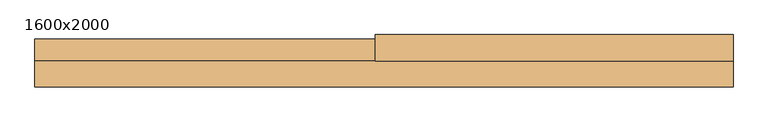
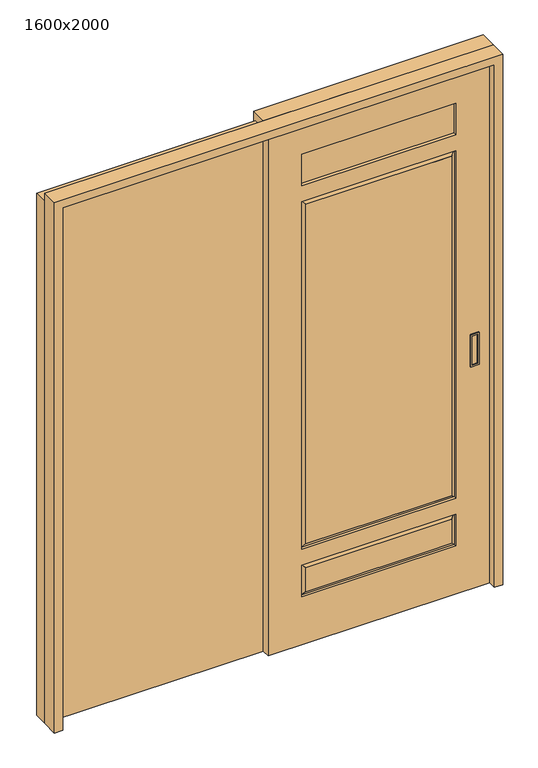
"""IFC4 building model written with IfcOpenShell, lengths in millimetres: door geometry, 片引戸CL2017 : 1600x2000."""

from ifc_helpers import new_model, si_unit, frame, origin, origin_with_axes, place, context, project, spatial, polyline, outline, extrude, faceted_brep, source, transform, mapped, element, save


def door_1600x2000_09a7ee27(model_context):
    return source(origin(), model_context, "Body", "SolidModel", [
        faceted_brep([(730.0, 5.0, 960.0), (730.0, 5.0, 840.0), (700.0, 5.0, 840.0), (700.0, 5.0, 960.0), (705.0, 5.0, 955.0), (705.0, 5.0, 845.0), (725.0, 5.0, 845.0), (725.0, 5.0, 955.0), (730.0, -35.0, 960.0), (700.0, -35.0, 960.0), (700.0, -35.0, 840.0), (730.0, -35.0, 840.0), (705.0, -35.0, 845.0), (705.0, -35.0, 955.0), (725.0, -35.0, 955.0), (725.0, -35.0, 845.0), (705.0, 1.0, 955.0), (705.0, 1.0, 845.0), (705.0, -31.0, 845.0), (705.0, -31.0, 955.0), (725.0, 1.0, 955.0), (725.0, 1.0, 845.0), (725.0, -31.0, 845.0), (725.0, -31.0, 955.0)], [[[0, 1, 2, 3], [4, 5, 6, 7]], [[8, 9, 10, 11], [12, 13, 14, 15]], [[1, 0, 8, 11]], [[2, 1, 11, 10]], [[3, 2, 10, 9]], [[0, 3, 9, 8]], [[16, 17, 5, 4]], [[18, 19, 13, 12]], [[20, 7, 6, 21]], [[22, 15, 14, 23]], [[16, 4, 7, 20]], [[5, 17, 21, 6]], [[17, 16, 20, 21]], [[18, 12, 15, 22]], [[13, 19, 23, 14]], [[19, 18, 22, 23]]]),
        extrude(outline(polyline([(0.0, 770.0), (1970.0, 770.0), (1970.0, -20.0), (0.0, -20.0), (0.0, 770.0)]), holes=[polyline([(1730.0, 650.0), (1730.0, 100.0), (1850.0, 100.0), (1850.0, 650.0), (1730.0, 650.0)]), polyline([(300.0, 100.0), (300.0, 650.0), (180.0, 650.0), (180.0, 100.0), (300.0, 100.0)]), polyline([(360.0, 650.0), (360.0, 100.0), (1670.0, 100.0), (1670.0, 650.0), (360.0, 650.0)])]), frame((0.0, -30.0, 0.0), z_axis=(0.0, 1.0, 0.0), x_axis=(0.0, 0.0, 1.0)), (0.0, 0.0, 1.0), 30.0),
        extrude(outline(polyline([(650.0, -17.5), (100.0, -17.5), (100.0, -12.5), (650.0, -12.5), (650.0, -17.5)])), frame((0.0, 0.0, 1730.0), z_axis=(0.0, 0.0, 1.0), x_axis=(1.0, 0.0, 0.0)), (0.0, 0.0, 1.0), 120.0),
        extrude(outline(polyline([(635.0, -30.0), (115.0, -30.0), (115.0, 0.0), (635.0, 0.0), (635.0, -30.0)])), frame((0.0, 0.0, 195.0), z_axis=(0.0, 0.0, 1.0), x_axis=(1.0, 0.0, 0.0)), (0.0, 0.0, 1.0), 90.0),
        extrude(outline(polyline([(635.0, -30.0), (115.0, -30.0), (115.0, 0.0), (635.0, 0.0), (635.0, -30.0)])), frame((0.0, 0.0, 375.0), z_axis=(0.0, 0.0, 1.0), x_axis=(1.0, 0.0, 0.0)), (0.0, 0.0, 1.0), 1280.0),
        faceted_brep([(100.0, -20.0, 1670.0), (100.0, -10.0, 1670.0), (100.0, -10.0, 360.0), (100.0, -20.0, 360.0), (115.0, -30.0, 1655.0), (115.0, -30.0, 375.0), (115.0, 0.0, 1655.0), (115.0, 0.0, 375.0), (650.0, -10.0, 360.0), (650.0, -20.0, 360.0), (635.0, -30.0, 375.0), (635.0, 0.0, 375.0), (650.0, -10.0, 1670.0), (650.0, -20.0, 1670.0), (635.0, -30.0, 1655.0), (635.0, 0.0, 1655.0)], [[[0, 1, 2, 3]], [[4, 0, 3, 5]], [[6, 4, 5, 7]], [[1, 6, 7, 2]], [[3, 2, 8, 9]], [[5, 3, 9, 10]], [[7, 5, 10, 11]], [[2, 7, 11, 8]], [[9, 8, 12, 13]], [[10, 9, 13, 14]], [[11, 10, 14, 15]], [[8, 11, 15, 12]], [[13, 12, 1, 0]], [[14, 13, 0, 4]], [[15, 14, 4, 6]], [[12, 15, 6, 1]]]),
        faceted_brep([(115.0, 0.0, 195.0), (100.0, -10.0, 180.0), (100.0, -10.0, 300.0), (115.0, 0.0, 285.0), (115.0, -30.0, 195.0), (115.0, -30.0, 285.0), (100.0, -20.0, 180.0), (100.0, -20.0, 300.0), (650.0, -10.0, 300.0), (635.0, 0.0, 285.0), (635.0, -30.0, 285.0), (650.0, -20.0, 300.0), (650.0, -10.0, 180.0), (635.0, 0.0, 195.0), (635.0, -30.0, 195.0), (650.0, -20.0, 180.0)], [[[0, 1, 2, 3]], [[4, 0, 3, 5]], [[6, 4, 5, 7]], [[1, 6, 7, 2]], [[3, 2, 8, 9]], [[5, 3, 9, 10]], [[7, 5, 10, 11]], [[2, 7, 11, 8]], [[9, 8, 12, 13]], [[10, 9, 13, 14]], [[11, 10, 14, 15]], [[8, 11, 15, 12]], [[13, 12, 1, 0]], [[14, 13, 0, 4]], [[15, 14, 4, 6]], [[12, 15, 6, 1]]]),
        extrude(outline(polyline([(0.0, 770.0), (0.0, 800.0), (2000.0, 800.0), (2000.0, -20.0), (0.0, -20.0), (0.0, 10.0), (1970.0, 10.0), (1970.0, 770.0), (0.0, 770.0)])), frame((0.0, 0.0, 0.0), z_axis=(0.0, 1.0, 0.0), x_axis=(0.0, 0.0, 1.0)), (0.0, 0.0, 1.0), 60.0),
        extrude(outline(polyline([(0.0, 770.0), (0.0, 800.0), (2000.0, 800.0), (2000.0, -800.0), (0.0, -800.0), (0.0, -770.0), (1970.0, -770.0), (1970.0, 770.0), (0.0, 770.0)])), frame((0.0, -60.0, 0.0), z_axis=(0.0, 1.0, 0.0), x_axis=(0.0, 0.0, 1.0)), (0.0, 0.0, 1.0), 60.0),
        extrude(outline(polyline([(-20.0, 0.0), (-800.0, 0.0), (-800.0, 50.0), (-20.0, 50.0), (-20.0, 0.0)])), origin_with_axes(), (0.0, 0.0, 1.0), 1970.0),
    ])


if __name__ == "__main__":
    model = new_model("IFC4")
    model_context = context("Model", 3, world=origin())
    ifc_project = project(units=[si_unit("LENGTHUNIT", "METRE", prefix="MILLI")], contexts=[model_context])
    site = spatial("IfcSite", under=ifc_project)
    building = spatial("IfcBuilding", under=site)
    placement = place(None, origin())
    door_1600x2000_shape = door_1600x2000_09a7ee27(model_context)
    element("IfcDoor", 1, ObjectType="片引戸CL2017 : 1600x2000", at=placement, inside=building, context=model_context, shape_type="MappedRepresentation", body=[
        mapped(door_1600x2000_shape, transform((0.0, 0.0, 0.0), x_axis=(1.0, 0.0, 0.0), y_axis=(0.0, 1.0, 0.0), z_axis=(0.0, 0.0, 1.0))),
    ])
    save(model, "model.ifc")
